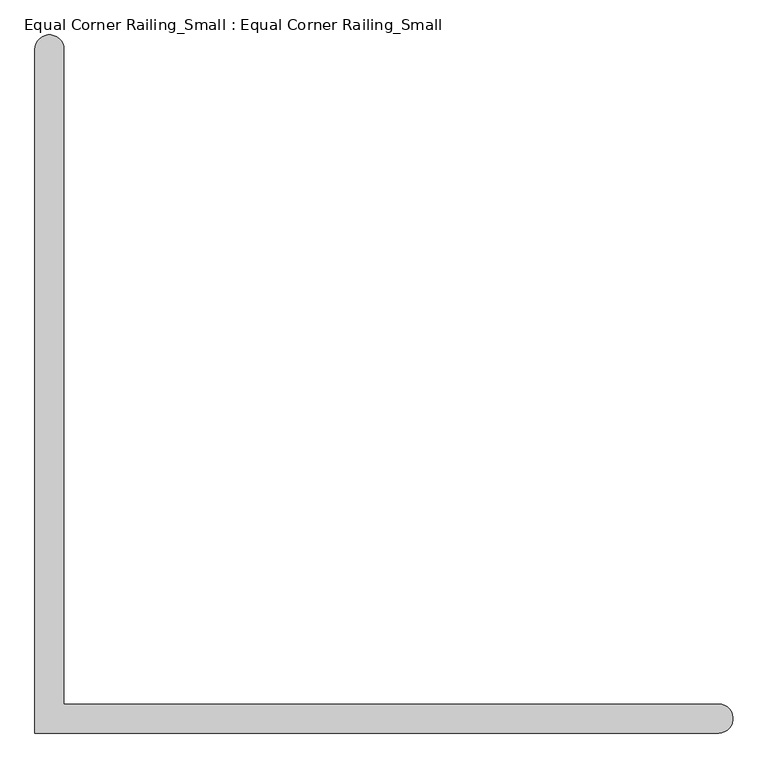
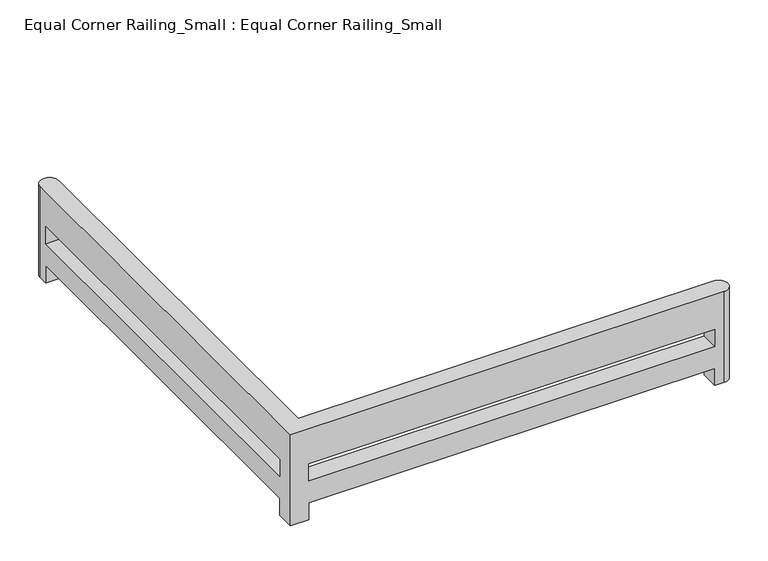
"""IFC4 building model written with IfcOpenShell, lengths in millimetres: railing geometry, Equal Corner Railing_Small : Equal Corner Railing_Small."""

from ifc_helpers import new_model, si_unit, frame, origin, place, context, project, spatial, circle_curve, source, transform, mapped, element, save
from ifc_brep_helpers import plane_surface, cylinder_surface, advanced_brep


def equal_corner_railing_small_equal_corner_railing_small_9601f2c6(model_context):
    return source(origin(), model_context, "Body", "AdvancedBrep", [
        advanced_brep(
        [(-101.6, 4699.0, 1066.8), (-101.6, -101.6, 1066.8), (4699.0, -101.6, 1066.8), (4699.0, 101.6, 1066.8), (101.6, 101.6, 1066.8), (101.6, 4699.0, 1066.8), (-101.6, 4699.0, 0.0), (101.6, 4699.0, 0.0), (101.6, 4597.4, 0.0), (-101.6, 4597.4, 0.0), (4699.0, 101.6, 0.0), (4699.0, -101.6, 0.0), (4597.4, -101.6, 0.0), (4597.4, 101.6, 0.0), (101.6, -101.6, 0.0), (-101.6, -101.6, 0.0), (-101.6, 101.6, 0.0), (101.6, 101.6, 0.0), (-101.6, 4597.4, 203.2), (-101.6, 101.6, 203.2), (-101.6, 4597.4, 660.4), (-101.6, 101.6, 660.4), (-101.6, 101.6, 457.2), (-101.6, 4597.4, 457.2), (101.6, -101.6, 203.2), (4597.4, -101.6, 203.2), (101.6, -101.6, 660.4), (4597.4, -101.6, 660.4), (4597.4, -101.6, 457.2), (101.6, -101.6, 457.2), (4597.4, 101.6, 203.2), (101.6, 101.6, 203.2), (101.6, 101.6, 457.2), (4597.4, 101.6, 457.2), (4597.4, 101.6, 660.4), (101.6, 101.6, 660.4), (101.6, 4597.4, 660.4), (101.6, 4597.4, 457.2), (101.6, 4597.4, 203.2)],
        [
            (0, 1),
            (1, 2),
            (2, 3, circle_curve(frame((4699.0, 0.0, 1066.8), z_axis=(0.0, 0.0, 1.0), x_axis=(1.0, 0.0, 0.0)), 101.6)),
            (3, 4),
            (4, 5),
            (5, 0, circle_curve(frame((0.0, 4699.0, 1066.8), z_axis=(0.0, 0.0, 1.0), x_axis=(1.0, 0.0, 0.0)), 101.6)),
            (6, 7, circle_curve(frame((0.0, 4699.0, 0.0), z_axis=(0.0, 0.0, -1.0), x_axis=(1.0, 0.0, 0.0)), 101.6)),
            (7, 8),
            (8, 9),
            (9, 6),
            (10, 11, circle_curve(frame((4699.0, 0.0, 0.0), z_axis=(0.0, 0.0, -1.0), x_axis=(1.0, 0.0, 0.0)), 101.6)),
            (11, 12),
            (12, 13),
            (13, 10),
            (14, 15),
            (15, 16),
            (16, 17),
            (17, 14),
            (0, 6),
            (9, 18),
            (18, 19),
            (19, 16),
            (15, 1),
            (20, 21),
            (21, 22),
            (22, 23),
            (23, 20),
            (14, 24),
            (24, 25),
            (25, 12),
            (11, 2),
            (26, 27),
            (27, 28),
            (28, 29),
            (29, 26),
            (10, 3),
            (13, 30),
            (30, 31),
            (31, 32),
            (32, 33),
            (33, 34),
            (34, 35),
            (35, 4),
            (35, 36),
            (36, 37),
            (37, 32),
            (31, 38),
            (38, 8),
            (7, 5),
            (31, 24),
            (17, 31),
            (35, 26),
            (29, 32),
            (32, 35),
            (30, 25),
            (34, 27),
            (28, 33),
            (31, 19),
            (18, 38),
            (35, 21),
            (20, 36),
            (32, 22),
            (37, 23),
        ],
        [
            plane_surface(frame((-101.6, 0.0, 1066.8), z_axis=(0.0, 0.0, 1.0), x_axis=(0.0, -1.0, 0.0))),
            plane_surface(frame((-101.6, 0.0, 0.0), z_axis=(0.0, 0.0, -1.0), x_axis=(0.0, 1.0, 0.0))),
            plane_surface(frame((-101.6, 4699.0, 1066.8), z_axis=(-1.0, 0.0, 0.0), x_axis=(0.0, 0.0, -1.0))),
            plane_surface(frame((-101.6, -101.6, 1066.8), z_axis=(0.0, -1.0, 0.0), x_axis=(0.0, 0.0, -1.0))),
            cylinder_surface(frame((4699.0, 0.0, 0.0), z_axis=(0.0, 0.0, 1.0), x_axis=(1.0, 0.0, 0.0)), 101.6),
            plane_surface(frame((4699.0, 101.6, 1066.8), z_axis=(0.0, 1.0, 0.0), x_axis=(0.0, 0.0, -1.0))),
            plane_surface(frame((101.6, 101.6, 1066.8), z_axis=(1.0, 0.0, 0.0), x_axis=(0.0, 0.0, -1.0))),
            cylinder_surface(frame((0.0, 4699.0, 0.0), z_axis=(0.0, 0.0, 1.0), x_axis=(1.0, 0.0, 0.0)), 101.6),
            plane_surface(frame((4597.4, -101.6, 203.2), z_axis=(0.0, 0.0, -1.0), x_axis=(0.0, 1.0, 0.0))),
            plane_surface(frame((4597.4, -101.6, 0.0), z_axis=(-1.0, 0.0, 0.0), x_axis=(0.0, 1.0, 0.0))),
            plane_surface(frame((4597.4, -101.6, 660.4), z_axis=(0.0, 0.0, -1.0), x_axis=(0.0, 1.0, 0.0))),
            plane_surface(frame((101.6, -101.6, 457.2), z_axis=(0.0, 0.0, 1.0), x_axis=(0.0, 1.0, 0.0))),
            plane_surface(frame((4597.4, -101.6, 457.2), z_axis=(-1.0, 0.0, 0.0), x_axis=(0.0, 1.0, 0.0))),
            plane_surface(frame((101.6, 4597.4, 203.2), z_axis=(0.0, 0.0, -1.0), x_axis=(-1.0, 0.0, 0.0))),
            plane_surface(frame((101.6, 101.6, 203.2), z_axis=(0.0, 1.0, 0.0), x_axis=(-1.0, 0.0, 0.0))),
            plane_surface(frame((101.6, 4597.4, 0.0), z_axis=(0.0, -1.0, 0.0), x_axis=(-1.0, 0.0, 0.0))),
            plane_surface(frame((101.6, 4597.4, 660.4), z_axis=(0.0, 0.0, -1.0), x_axis=(-1.0, 0.0, 0.0))),
            plane_surface(frame((101.6, 101.6, 660.4), z_axis=(0.0, 1.0, 0.0), x_axis=(-1.0, 0.0, 0.0))),
            plane_surface(frame((101.6, 101.6, 457.2), z_axis=(0.0, 0.0, 1.0), x_axis=(-1.0, 0.0, 0.0))),
            plane_surface(frame((101.6, 4597.4, 457.2), z_axis=(0.0, -1.0, 0.0), x_axis=(-1.0, 0.0, 0.0))),
        ],
        [
            (0, [[1, 2, 3, 4, 5, 6]]),
            (1, [[7, 8, 9, 10]]),
            (1, [[11, 12, 13, 14]]),
            (1, [[15, 16, 17, 18]]),
            (2, [[-1, 19, -10, 20, 21, 22, -16, 23], [24, 25, 26, 27]]),
            (3, [[-2, -23, -15, 28, 29, 30, -12, 31], [32, 33, 34, 35]]),
            (4, [[-3, -31, -11, 36]]),
            (5, [[-4, -36, -14, 37, 38, 39, 40, 41, 42, 43]]),
            (6, [[-5, -43, 44, 45, 46, -39, 47, 48, -8, 49]]),
            (6, [[50, -28, -18, 51]]),
            (6, [[52, -35, 53, 54]]),
            (7, [[-6, -49, -7, -19]]),
            (8, [[-50, -38, 55, -29]]),
            (9, [[-55, -37, -13, -30]]),
            (10, [[-52, -42, 56, -32]]),
            (11, [[-53, -34, 57, -40]]),
            (12, [[-56, -41, -57, -33]]),
            (13, [[58, -21, 59, -47]]),
            (14, [[-58, -51, -17, -22]]),
            (15, [[-59, -20, -9, -48]]),
            (16, [[60, -24, 61, -44]]),
            (17, [[-60, -54, 62, -25]]),
            (18, [[-62, -46, 63, -26]]),
            (19, [[-61, -27, -63, -45]]),
        ],
    ),
    ])


if __name__ == "__main__":
    model = new_model("IFC4")
    model_context = context("Model", 3, world=origin())
    ifc_project = project(units=[si_unit("LENGTHUNIT", "METRE", prefix="MILLI")], contexts=[model_context])
    site = spatial("IfcSite", under=ifc_project)
    building = spatial("IfcBuilding", under=site)
    placement = place(None, origin())
    equal_corner_railing_small_equal_corner_railing_small_shape = equal_corner_railing_small_equal_corner_railing_small_9601f2c6(model_context)
    element("IfcRailing", 1, ObjectType="Equal Corner Railing_Small : Equal Corner Railing_Small", at=placement, inside=building, context=model_context, shape_type="MappedRepresentation", body=[
        mapped(equal_corner_railing_small_equal_corner_railing_small_shape, transform((0.0, 0.0, 0.0), x_axis=(1.0, 0.0, 0.0), y_axis=(0.0, 1.0, 0.0), z_axis=(0.0, 0.0, 1.0))),
    ])
    save(model, "model.ifc")
